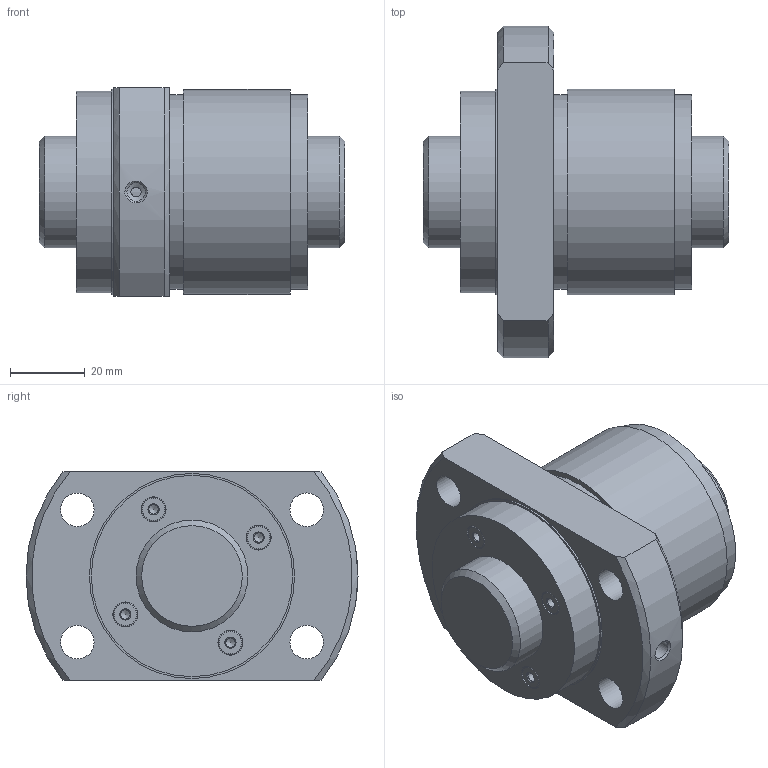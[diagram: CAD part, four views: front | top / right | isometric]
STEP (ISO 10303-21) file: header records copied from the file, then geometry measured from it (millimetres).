
FILE_DESCRIPTION(/* description */ ('STEP AP203'),/* implementation_level */ '2;1');
FILE_NAME(/* name */ 'WGF3060-1G1+82LC3_N0_13_0_0',/* time_stamp */ '2025-01-16T06:26:36+01:00',/* author */ ('License CC BY-ND 4.0'),/* organization */ ('CADENAS'),/* preprocessor_version */ 'ST-DEVELOPER v19.3',/* originating_system */ 'PARTsolutions',/* authorisation */ ' ');
FILE_SCHEMA (('CONFIG_CONTROL_DESIGN'));
Length unit declared in the file: millimetre
Products named in the file (3): WGF3060-1G1+82LC3_N0_13_0_0; N0130WGF3060-10Shaft; NRR0130WGF3060-1Nut
Assembly tree (2 placements, depth 2):
  WGF3060-1G1+82LC3_N0_13_0_0
    N0130WGF3060-10Shaft
    NRR0130WGF3060-1Nut
Bounding box: 82 x 89 x 56 mm (x, y, z)
Volume: 187521.9 mm3; surface area: 37826 mm2
Topology: 2 solids, 2 shells, 65 faces, 132 edges, 84 vertices
Faces by surface type: cylinder 26, plane 19, cone 16, torus 4
Full cylindrical faces by diameter (mm): 2.5 x4, 4.917 x1, 6.5 x4, 6.7 x4, 9 x4, 30 x2, 52.25 x2, 54 x1, 55 x2
Entity records: 1583 total; most frequent: DIRECTION 276, CARTESIAN_POINT 276, ORIENTED_EDGE 168, FACE_BOUND 134, AXIS2_PLACEMENT_3D 134, EDGE_LOOP 130, EDGE_CURVE 84, VERTEX_POINT 80
